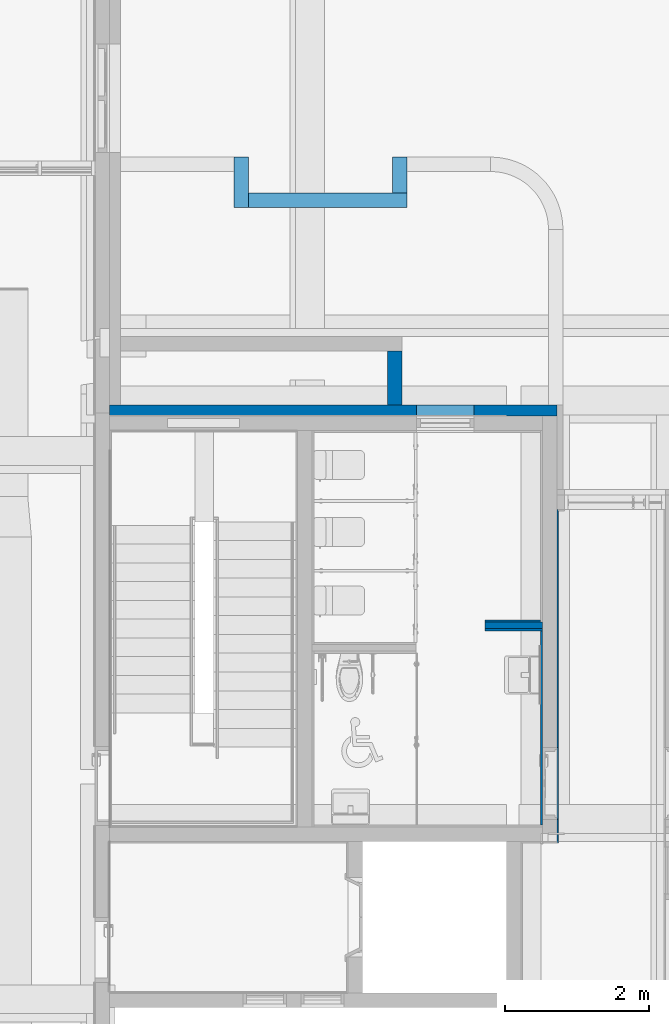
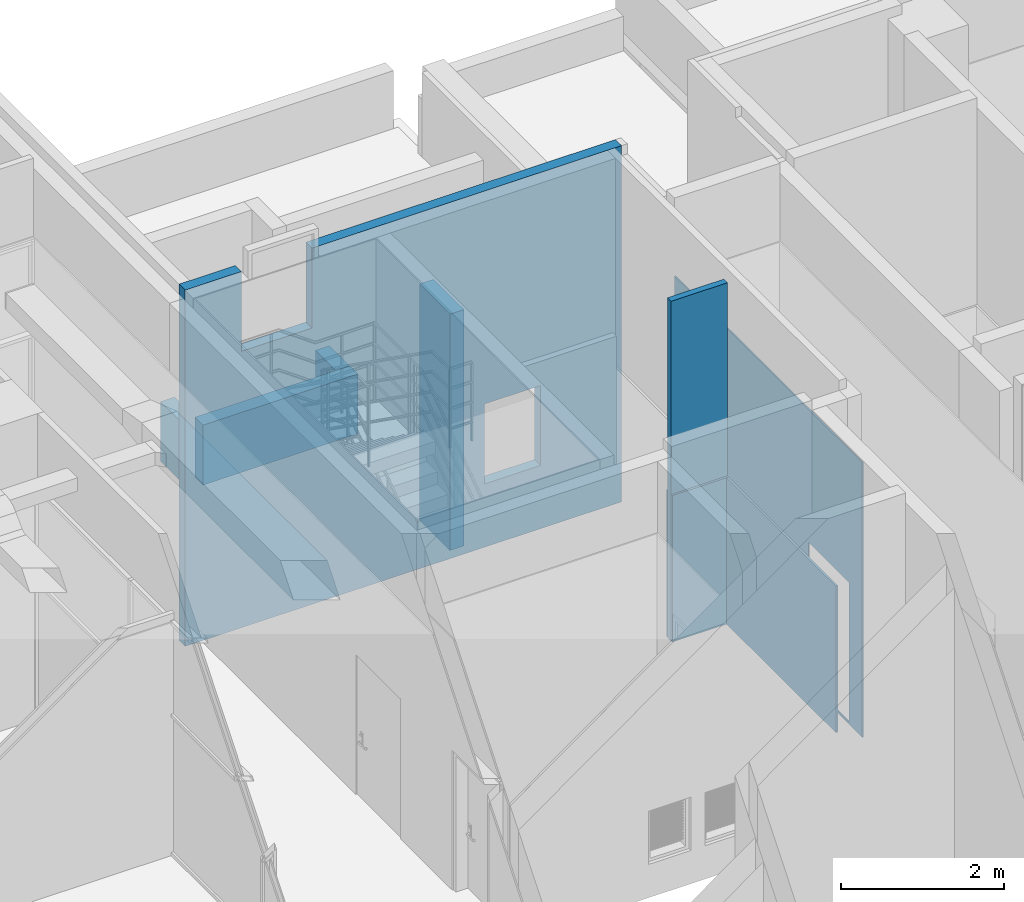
# One storey, part 49 of 100: 10 walls, 3 openings.
"""IFC2X3 building model written with IfcOpenShell, lengths in millimetres."""

import ifcopenshell
import ifcopenshell.guid

model = None  # the IFC model being written
_history = None  # IfcOwnerHistory: only IFC2X3 demands one
_inside = {}  # id of a spatial element -> (the spatial element, [elements in it])
_under = {}  # id of a project, library or spatial element -> (it, [spatial elements below it])
_declared = {}  # id of a project -> (the project, [libraries it declares])
_typed = {}  # id of a type object -> (the type object, [elements of that type])
_made_of = {}  # id of a material, layer set ... -> (it, [elements and type objects made of it])


def new_model(schema):
    """Start an empty IFC model of exactly this schema.

    Asked for "IFC4X3", IfcOpenShell would pick the latest addendum, in which some entities
    have other attributes; the version numbers below select the first issue.
    IFC2X3 requires an IfcOwnerHistory on every rooted entity: one is made here for all.
    """
    global model, _history
    if schema == "IFC4X3":
        model = ifcopenshell.file(schema_version=(4, 3, 0, 0))
    else:
        model = ifcopenshell.file(schema=schema)
    _inside.clear()
    _under.clear()
    _declared.clear()
    _typed.clear()
    _made_of.clear()
    _history = None
    if model.schema == "IFC2X3":
        org = make("IfcOrganization", Name="unknown")
        user = make(
            "IfcPersonAndOrganization",
            ThePerson=make("IfcPerson", FamilyName="unknown"),
            TheOrganization=org,
        )
        app = make(
            "IfcApplication",
            ApplicationDeveloper=org,
            Version="unknown",
            ApplicationFullName="unknown",
            ApplicationIdentifier="unknown",
        )
        _history = make(
            "IfcOwnerHistory",
            OwningUser=user,
            OwningApplication=app,
            ChangeAction="ADDED",
            CreationDate=0,
        )
    return model


def make(cls, **values):
    """One entity of the class cls with the attributes given. An attribute that is None is left unset."""
    return model.create_entity(
        cls, **{name: value for name, value in values.items() if value is not None}
    )


def entity(cls, *values):
    """Any entity or typed value of the class cls, its attributes in the order of the schema. None: left unset."""
    e = model.create_entity(cls)
    for i, value in enumerate(values):
        if value is not None:
            e[i] = value
    return e


def rooted(cls, **values):
    """An entity with a GlobalId (a new one), such as an element, a storey or a relation."""
    return make(cls, GlobalId=ifcopenshell.guid.new(), OwnerHistory=_history, **values)


def si_unit(unit_type, name, prefix=None):
    """IfcSIUnit, for example si_unit("LENGTHUNIT", "METRE", prefix="MILLI")."""
    return make("IfcSIUnit", UnitType=unit_type, Prefix=prefix, Name=name)


def converted_unit(unit_type, name, factor, base, dimensions=None, offset=None):
    """IfcConversionBasedUnit, such as the inch: factor (a typed value) times the base unit."""
    return make(
        "IfcConversionBasedUnit"
        if offset is None
        else "IfcConversionBasedUnitWithOffset",
        ConversionOffset=offset,
        Dimensions=None
        if dimensions is None
        else entity("IfcDimensionalExponents", *dimensions),
        UnitType=unit_type,
        Name=name,
        ConversionFactor=make(
            "IfcMeasureWithUnit", ValueComponent=factor, UnitComponent=base
        ),
    )


def derived_unit(unit_type, elements):
    """IfcDerivedUnit: a product of units, each with its exponent."""
    return make(
        "IfcDerivedUnit",
        Elements=[
            make("IfcDerivedUnitElement", Unit=unit, Exponent=power)
            for unit, power in elements
        ],
        UnitType=unit_type,
    )


def assignment(units):
    """IfcUnitAssignment: the units of a project."""
    return None if units is None else make("IfcUnitAssignment", Units=units)


def point(xyz):
    """IfcCartesianPoint."""
    return None if xyz is None else make("IfcCartesianPoint", Coordinates=xyz)


def direction(xyz):
    """IfcDirection."""
    return None if xyz is None else make("IfcDirection", DirectionRatios=xyz)


def frame(location, z_axis=None, x_axis=None):
    """IfcAxis2Placement3D, a coordinate frame: its origin and axes. An axis left out is left unset."""
    return make(
        "IfcAxis2Placement3D",
        Location=point(location),
        Axis=direction(z_axis),
        RefDirection=direction(x_axis),
    )


def frame_2d(location, x_axis=None):
    """IfcAxis2Placement2D, a coordinate frame in the plane: its origin and x axis."""
    return make(
        "IfcAxis2Placement2D", Location=point(location), RefDirection=direction(x_axis)
    )


def origin():
    """The frame at (0, 0, 0) with its axes left unset."""
    return frame((0.0, 0.0, 0.0))


def place(relative_to, where):
    """IfcLocalPlacement: puts the frame where relative to a parent placement (None: the world)."""
    return make(
        "IfcLocalPlacement", PlacementRelTo=relative_to, RelativePlacement=where
    )


def context(
    kind, dimensions, precision=None, world=None, true_north=None, identifier=None
):
    """IfcGeometricRepresentationContext, for example the 3D "Model" context."""
    return make(
        "IfcGeometricRepresentationContext",
        ContextIdentifier=identifier,
        ContextType=kind,
        CoordinateSpaceDimension=dimensions,
        Precision=precision,
        WorldCoordinateSystem=world,
        TrueNorth=true_north,
    )


def subcontext(parent, identifier, kind, view, scale=None):
    """IfcGeometricRepresentationSubContext, for example "Body" below "Model"."""
    return make(
        "IfcGeometricRepresentationSubContext",
        ContextIdentifier=identifier,
        ContextType=kind,
        ParentContext=parent,
        TargetScale=scale,
        TargetView=view,
    )


def project(units=None, contexts=None):
    """IfcProject with its units and contexts."""
    return rooted(
        "IfcProject",
        Name="project",
        RepresentationContexts=contexts,
        UnitsInContext=assignment(units),
    )


def spatial(cls, under=None, at=None, **own):
    """A site, building, storey or space (cls), placed at a placement, below another one or the project."""
    s = rooted(cls, ObjectPlacement=at, **own)
    if under is not None:
        _under.setdefault(under.id(), (under, []))[1].append(s)
    return s


def profile(cls, at=None, kind="AREA", **sizes):
    """A parametric profile (cls). Its sizes go by their IFC names, for example OverallWidth=200.0."""
    return make(cls, ProfileType=kind, Position=at, **sizes)


def rectangle(**sizes):
    """IfcRectangleProfileDef."""
    return profile("IfcRectangleProfileDef", **sizes)


def extrude(swept, where, along, depth):
    """IfcExtrudedAreaSolid: the profile swept, set in the frame where, extruded along a direction by depth."""
    return make(
        "IfcExtrudedAreaSolid",
        SweptArea=swept,
        Position=where,
        ExtrudedDirection=direction(along),
        Depth=depth,
    )


def shape(context_of_items, identifier, shape_type, items):
    """IfcShapeRepresentation: the items that make up one representation, for example the "Body"."""
    return make(
        "IfcShapeRepresentation",
        ContextOfItems=context_of_items,
        RepresentationIdentifier=identifier,
        RepresentationType=shape_type,
        Items=items,
    )


def material(Name=None, Category=None):
    """IfcMaterial."""
    return make("IfcMaterial", Name=Name, Category=Category)


def layer(
    of_material, thickness, ventilated=None, Name=None, Category=None, Priority=None
):
    """IfcMaterialLayer: one layer of a wall or slab, of a material (None: an air gap)."""
    return make(
        "IfcMaterialLayer",
        Material=of_material,
        LayerThickness=thickness,
        IsVentilated=ventilated,
        Name=Name,
        Category=Category,
        Priority=Priority,
    )


def layer_set(layers, Name=None):
    """IfcMaterialLayerSet."""
    return make("IfcMaterialLayerSet", MaterialLayers=layers, LayerSetName=Name)


def layer_usage(for_layer_set, set_direction, sense, offset, extent=None):
    """IfcMaterialLayerSetUsage: how a layer set lies in its element."""
    return make(
        "IfcMaterialLayerSetUsage",
        ForLayerSet=for_layer_set,
        LayerSetDirection=set_direction,
        DirectionSense=sense,
        OffsetFromReferenceLine=offset,
        ReferenceExtent=extent,
    )


def made_of(thing, what):
    """Note that an element or type object is made of a material, layer set ...; save() writes the relation."""
    if what is not None:
        _made_of.setdefault(what.id(), (what, []))[1].append(thing)
    return thing


def type_object(cls, material=None, **own):
    """A type object (cls), such as IfcWallType, which elements share."""
    return made_of(rooted(cls, **own), material)


def element(
    cls,
    number,
    at=None,
    inside=None,
    cuts=None,
    type_object=None,
    material=None,
    context=None,
    identifier="Body",
    shape_type=None,
    held_by="IfcProductDefinitionShape",
    body=None,
    shapes=None,
    **own,
):
    """One element of the class cls, such as IfcWall. Its Tag is "e" and its number.

    at: its placement. inside: the storey or other place that contains it. cuts: it is an
    opening in that element (IfcRelVoidsElement). A single representation is given by context,
    identifier, shape_type and body (its items); several are given by shapes. held_by: the class
    of the entity that holds the representations. save() writes the other relations.
    """
    e = rooted(cls, Tag="e%d" % number, ObjectPlacement=at, **own)
    if body is not None:
        shapes = [shape(context, identifier, shape_type, body)]
    if shapes is not None:
        e.Representation = make(held_by, Representations=shapes)
    if inside is not None:
        _inside.setdefault(inside.id(), (inside, []))[1].append(e)
    if cuts is not None:
        rooted(
            "IfcRelVoidsElement", RelatingBuildingElement=cuts, RelatedOpeningElement=e
        )
    if type_object is not None:
        _typed.setdefault(type_object.id(), (type_object, []))[1].append(e)
    return made_of(e, material)


def aggregate(whole, parts):
    """IfcRelAggregates: a whole, such as a stair, and the parts it consists of."""
    return rooted("IfcRelAggregates", RelatingObject=whole, RelatedObjects=parts)


def save(model, path):
    """Write the relations noted so far, then the file.

    IfcRelAggregates (storeys below a building ...), IfcRelContainedInSpatialStructure (elements
    in a storey), IfcRelDefinesByType, IfcRelAssociatesMaterial and IfcRelDeclares: one each for
    every whole, place, type object, material and project.
    """
    for whole, parts in _under.values():
        aggregate(whole, parts)
    for where, things in _inside.values():
        rooted(
            "IfcRelContainedInSpatialStructure",
            RelatedElements=things,
            RelatingStructure=where,
        )
    for kind, things in _typed.values():
        rooted("IfcRelDefinesByType", RelatedObjects=things, RelatingType=kind)
    for what, things in _made_of.values():
        rooted("IfcRelAssociatesMaterial", RelatedObjects=things, RelatingMaterial=what)
    for by, libraries in _declared.values():
        rooted("IfcRelDeclares", RelatingContext=by, RelatedDefinitions=libraries)
    model.write(path)


model = new_model("IFC2X3")

# Units and contexts
model_context = context("Model", 3, precision=0.01, world=origin(), true_north=direction((6.123031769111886e-17, 1.0)))
body_context = subcontext(model_context, "Body", "Model", "MODEL_VIEW")
ifc_project = project(units=[si_unit("LENGTHUNIT", "METRE", prefix="MILLI"), si_unit("AREAUNIT", "SQUARE_METRE"), si_unit("VOLUMEUNIT", "CUBIC_METRE"), converted_unit("PLANEANGLEUNIT", "DEGREE", entity("IfcRatioMeasure", 0.017453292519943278), si_unit("PLANEANGLEUNIT", "RADIAN"), dimensions=[0, 0, 0, 0, 0, 0, 0]), si_unit("MASSUNIT", "GRAM", prefix="KILO"), derived_unit("MASSDENSITYUNIT", [(si_unit("MASSUNIT", "GRAM", prefix="KILO"), 1), (si_unit("LENGTHUNIT", "METRE"), -3)]), derived_unit("MOMENTOFINERTIAUNIT", [(si_unit("LENGTHUNIT", "METRE"), 4)]), si_unit("TIMEUNIT", "SECOND"), si_unit("FREQUENCYUNIT", "HERTZ"), si_unit("THERMODYNAMICTEMPERATUREUNIT", "DEGREE_CELSIUS"), derived_unit("THERMALTRANSMITTANCEUNIT", [(si_unit("MASSUNIT", "GRAM", prefix="KILO"), 1), (si_unit("THERMODYNAMICTEMPERATUREUNIT", "KELVIN"), -1), (si_unit("TIMEUNIT", "SECOND"), -3)]), derived_unit("VOLUMETRICFLOWRATEUNIT", [(si_unit("LENGTHUNIT", "METRE"), 3), (si_unit("TIMEUNIT", "SECOND"), -1)]), derived_unit("MASSFLOWRATEUNIT", [(si_unit("MASSUNIT", "GRAM", prefix="KILO"), 1), (si_unit("TIMEUNIT", "SECOND"), -1)]), derived_unit("ROTATIONALFREQUENCYUNIT", [(si_unit("TIMEUNIT", "SECOND"), -1)]), si_unit("ELECTRICCURRENTUNIT", "AMPERE"), si_unit("ELECTRICVOLTAGEUNIT", "VOLT"), si_unit("POWERUNIT", "WATT"), si_unit("FORCEUNIT", "NEWTON", prefix="KILO"), si_unit("ILLUMINANCEUNIT", "LUX"), si_unit("LUMINOUSFLUXUNIT", "LUMEN"), si_unit("LUMINOUSINTENSITYUNIT", "CANDELA"), derived_unit("USERDEFINED", [(si_unit("MASSUNIT", "GRAM", prefix="KILO"), -1), (si_unit("LENGTHUNIT", "METRE"), -2), (si_unit("TIMEUNIT", "SECOND"), 3), (si_unit("LUMINOUSFLUXUNIT", "LUMEN"), 1)]), derived_unit("SOUNDPOWERUNIT", [(si_unit("MASSUNIT", "GRAM", prefix="KILO"), 1), (si_unit("LENGTHUNIT", "METRE"), 2), (si_unit("TIMEUNIT", "SECOND"), -3)]), derived_unit("SOUNDPRESSUREUNIT", [(si_unit("MASSUNIT", "GRAM", prefix="KILO"), 1), (si_unit("LENGTHUNIT", "METRE"), -1), (si_unit("TIMEUNIT", "SECOND"), -2)]), derived_unit("LINEARVELOCITYUNIT", [(si_unit("LENGTHUNIT", "METRE"), 1), (si_unit("TIMEUNIT", "SECOND"), -1)]), si_unit("PRESSUREUNIT", "PASCAL"), derived_unit("USERDEFINED", [(si_unit("LENGTHUNIT", "METRE"), -2), (si_unit("MASSUNIT", "GRAM", prefix="KILO"), 1), (si_unit("TIMEUNIT", "SECOND"), -2)]), derived_unit("LINEARFORCEUNIT", [(si_unit("MASSUNIT", "GRAM", prefix="KILO"), 1), (si_unit("LENGTHUNIT", "METRE"), 1), (si_unit("TIMEUNIT", "SECOND"), -2), (si_unit("LENGTHUNIT", "METRE"), -1)]), derived_unit("PLANARFORCEUNIT", [(si_unit("MASSUNIT", "GRAM", prefix="KILO"), 1), (si_unit("LENGTHUNIT", "METRE"), 1), (si_unit("TIMEUNIT", "SECOND"), -2), (si_unit("LENGTHUNIT", "METRE"), -2)])], contexts=[model_context])

# Site, building, storey
site_placement = place(None, frame((-14167.972527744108, -657.2125860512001, 0.0)))
site = spatial("IfcSite", under=ifc_project, at=site_placement, Name="Default", CompositionType="ELEMENT")
building_placement = place(site_placement, origin())
building = spatial("IfcBuilding", under=site, at=building_placement, Name="Sample Building", CompositionType="ELEMENT")
storey_placement = place(building_placement, origin())
storey = spatial("IfcBuildingStorey", under=building, at=storey_placement, Name="지상 1층", CompositionType="ELEMENT", Elevation=0.0)

# Walls
ifc_material_1 = material(Name="KBIMS-콘크리트")
ifc_layer_1 = layer(ifc_material_1, 200.0)
ifc_layer_set_1 = layer_set([ifc_layer_1], Name="기본 벽:WA111-철근콘크리트구조 벽 200mm_CW1")
ifc_layer_usage_1 = layer_usage(ifc_layer_set_1, "AXIS2", "NEGATIVE", 100.0)
wall_type_1 = type_object("IfcWallType", Name="기본 벽:WA111-철근콘크리트구조 벽 200mm_CW1", PredefinedType="STANDARD", material=ifc_layer_set_1)
wall_1_placement = place(storey_placement, frame((34216.53319398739, 29057.21230798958, -550.0), z_axis=(0.0, 0.0, 1.0), x_axis=(0.0, -1.0, 0.0)))
element("IfcWallStandardCase", 1, at=wall_1_placement, inside=storey, type_object=wall_type_1, material=ifc_layer_usage_1, Name="기본 벽:WA111-철근콘크리트구조 벽 200mm_CW1", ObjectType="기본 벽:WA111-철근콘크리트구조 벽 200mm_CW1", context=body_context, shape_type="SweptSolid", body=[
    extrude(rectangle(XDim=749.9999999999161, YDim=199.99999999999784, at=frame_2d((374.99999999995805, 0.0), x_axis=(-1.0, 0.0))), origin(), (0.0, 0.0, 1.0), 3550.0000000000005),
])
ifc_layer_usage_2 = layer_usage(ifc_layer_set_1, "AXIS2", "NEGATIVE", 100.0)
wall_2_placement = place(storey_placement, frame((32088.007088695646, 31042.542930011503, -550.0), z_axis=(0.0, 0.0, 1.0), x_axis=(0.0, 1.0, 0.0)))
element("IfcWallStandardCase", 2, at=wall_2_placement, inside=storey, type_object=wall_type_1, material=ifc_layer_usage_2, Name="기본 벽:WA111-철근콘크리트구조 벽 200mm_CW1", ObjectType="기본 벽:WA111-철근콘크리트구조 벽 200mm_CW1", context=body_context, shape_type="SweptSolid", body=[
    extrude(rectangle(XDim=699.9999999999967, YDim=200.0000000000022, at=frame_2d((349.99999999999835, -1.6626700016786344e-12), x_axis=(-1.0, 0.0))), origin(), (0.0, 0.0, 1.0), 900.0000000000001),
])
ifc_layer_usage_3 = layer_usage(ifc_layer_set_1, "AXIS2", "NEGATIVE", 100.0)
wall_3_placement = place(storey_placement, frame((32188.007088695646, 31142.542930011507, -550.0)))
element("IfcWallStandardCase", 3, at=wall_3_placement, inside=storey, type_object=wall_type_1, material=ifc_layer_usage_3, Name="기본 벽:WA111-철근콘크리트구조 벽 200mm_CW1", ObjectType="기본 벽:WA111-철근콘크리트구조 벽 200mm_CW1", context=body_context, shape_type="SweptSolid", body=[
    extrude(rectangle(XDim=2200.000000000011, YDim=200.0000000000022, at=frame_2d((1100.0000000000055, -8.171241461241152e-13), x_axis=(-1.0, 0.0))), origin(), (0.0, 0.0, 1.0), 900.0000000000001),
])
ifc_layer_usage_4 = layer_usage(ifc_layer_set_1, "AXIS2", "NEGATIVE", 100.0)
wall_4_placement = place(storey_placement, frame((34288.00708869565, 31742.54293001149, -550.0), z_axis=(0.0, 0.0, 1.0), x_axis=(0.0, -1.0, 0.0)))
element("IfcWallStandardCase", 4, at=wall_4_placement, inside=storey, type_object=wall_type_1, material=ifc_layer_usage_4, Name="기본 벽:WA111-철근콘크리트구조 벽 200mm_CW1", ObjectType="기본 벽:WA111-철근콘크리트구조 벽 200mm_CW1", context=body_context, shape_type="SweptSolid", body=[
    extrude(rectangle(XDim=499.9999999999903, YDim=199.99999999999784, at=frame_2d((249.99999999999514, 1.7053025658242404e-13), x_axis=(-1.0, 0.0))), origin(), (0.0, 0.0, 1.0), 900.0000000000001),
])

# Wall, openings
ifc_material_2 = material(Name="WA240-ALC블록벽")
ifc_layer_2 = layer(ifc_material_2, 35.0)
ifc_material_3 = material(Name="WA795-(STEEL)BRACKET")
ifc_layer_3 = layer(ifc_material_3, 65.0)
ifc_material_4 = material(Name="WA821-압출스티로폼 벽 (본드붙임, 비중0.03) 50mm")
ifc_layer_4 = layer(ifc_material_4, 50.0)
ifc_layer_set_2 = layer_set([ifc_layer_2, ifc_layer_3, ifc_layer_4], Name="기본 벽:A2-22-02A-압출스티로폼, BRACKET(STEEL), ALC블록 (150mm)")
ifc_layer_usage_5 = layer_usage(ifc_layer_set_2, "AXIS2", "POSITIVE", -75.0)
wall_type_2 = type_object("IfcWallType", Name="기본 벽:A2-22-02A-압출스티로폼, BRACKET(STEEL), ALC블록 (150mm)", PredefinedType="STANDARD", material=ifc_layer_set_2)
wall_5_placement = place(storey_placement, frame((36467.963798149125, 28232.212307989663, -550.0), z_axis=(0.0, 0.0, 1.0), x_axis=(-1.0, 0.0, 0.0)))
wall_5 = element("IfcWallStandardCase", 5, at=wall_5_placement, inside=storey, type_object=wall_type_2, material=ifc_layer_usage_5, Name="기본 벽:A2-22-02A-압출스티로폼, BRACKET(STEEL), ALC블록 (150mm)", ObjectType="기본 벽:A2-22-02A-압출스티로폼, BRACKET(STEEL), ALC블록 (150mm)", context=body_context, shape_type="SweptSolid", body=[
    extrude(rectangle(XDim=6200.000036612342, YDim=150.00000000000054, at=frame_2d((3100.000018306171, 0.0), x_axis=(-1.0, 0.0))), origin(), (0.0, 0.0, 1.0), 5350.000000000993),
])
opening_1_placement = place(wall_5_placement, origin())
element("IfcOpeningElement", 6, at=opening_1_placement, cuts=wall_5, Name="기본 벽:A2-22-02A-압출스티로폼, BRACKET(STEEL), ALC블록 (150mm)", ObjectType="Opening", context=body_context, shape_type="SweptSolid", body=[
    extrude(rectangle(XDim=1600.0000000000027, YDim=999.999999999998, at=frame_2d((0.0, 2.8421709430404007e-13), x_axis=(0.0, 1.0))), frame((4900.914645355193, -1249.0, 4950.0), z_axis=(0.0, 1.0, 0.0), x_axis=(-1.0, 0.0, 0.0)), (0.0, 0.0, 1.0), 3048.0),
])
opening_2_placement = place(wall_5_placement, origin())
element("IfcOpeningElement", 7, at=opening_2_placement, cuts=wall_5, Name="기본 벽:A2-22-02A-압출스티로폼, BRACKET(STEEL), ALC블록 (150mm)", ObjectType="Opening", context=body_context, shape_type="SweptSolid", body=[
    extrude(rectangle(XDim=1200.0000000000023, YDim=799.9999999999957, at=frame_2d((5.684341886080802e-14, -2.1600499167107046e-12), x_axis=(1.0, 0.0))), frame((1549.991307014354, -1449.0, 1550.0), z_axis=(0.0, 1.0, 0.0), x_axis=(0.0, 0.0, 1.0)), (0.0, 0.0, 1.0), 3048.0),
])

# Wall
ifc_material_5 = material(Name="KBIMS-시멘트 벽돌")
ifc_layer_5 = layer(ifc_material_5, 90.0)
ifc_layer_set_3 = layer_set([ifc_layer_5], Name="기본 벽:WA211-시멘트벽돌(일반) 벽 (0.5B) 90mm")
ifc_layer_usage_6 = layer_usage(ifc_layer_set_3, "AXIS2", "NEGATIVE", 45.0)
wall_type_3 = type_object("IfcWallType", Name="기본 벽:WA211-시멘트벽돌(일반) 벽 (0.5B) 90mm", PredefinedType="STANDARD", material=ifc_layer_set_3)
wall_6_placement = place(storey_placement, frame((35467.9637981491, 25252.21230798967, -510.0)))
element("IfcWallStandardCase", 8, at=wall_6_placement, inside=storey, type_object=wall_type_3, material=ifc_layer_usage_6, Name="기본 벽:WA211-시멘트벽돌(일반) 벽 (0.5B) 90mm", ObjectType="기본 벽:WA211-시멘트벽돌(일반) 벽 (0.5B) 90mm", context=body_context, shape_type="SweptSolid", body=[
    extrude(rectangle(XDim=800.0000000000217, YDim=90.0000000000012, at=frame_2d((400.00000000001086, -2.8919089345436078e-12), x_axis=(-1.0, 0.0))), origin(), (0.0, 0.0, 1.0), 5110.000000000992),
])

# Wall, opening
ifc_material_6 = material(Name="WA611-수성페인트 (내부) 벽 (3회)")
ifc_layer_6 = layer(ifc_material_6, 1.0)
ifc_material_7 = material(Name="WA551-시멘트모르타르 (내부) 벽 18mm")
ifc_layer_7 = layer(ifc_material_7, 16.0)
ifc_material_8 = material(Name="WA555-콘크리트면정리 벽 (내부)")
ifc_layer_8 = layer(ifc_material_8, 1.0)
ifc_layer_set_4 = layer_set([ifc_layer_6, ifc_layer_7, ifc_layer_8], Name="기본 벽:A1-32-06A-콘크리트면정리, 시멘트모르타르(미장용), 수성페인트(내부) (18mm)")
ifc_layer_usage_7 = layer_usage(ifc_layer_set_4, "AXIS2", "NEGATIVE", 9.000000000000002)
wall_type_4 = type_object("IfcWallType", Name="기본 벽:A1-32-06A-콘크리트면정리, 시멘트모르타르(미장용), 수성페인트(내부) (18mm)", PredefinedType="STANDARD", material=ifc_layer_set_4)
wall_7_placement = place(storey_placement, frame((36476.963798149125, 26857.212295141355, -500.0), z_axis=(0.0, 0.0, 1.0), x_axis=(0.0, -1.0, 0.0)))
wall_7 = element("IfcWallStandardCase", 9, at=wall_7_placement, inside=storey, type_object=wall_type_4, material=ifc_layer_usage_7, Name="기본 벽:A1-32-06A-콘크리트면정리, 시멘트모르타르(미장용), 수성페인트(내부) (18mm)", ObjectType="기본 벽:A1-32-06A-콘크리트면정리, 시멘트모르타르(미장용), 수성페인트(내부) (18mm)", context=body_context, shape_type="SweptSolid", body=[
    extrude(rectangle(XDim=4618.017400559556, YDim=18.00000000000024, at=frame_2d((2309.008700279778, -2.140509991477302e-12), x_axis=(-1.0, 0.0))), origin(), (0.0, 0.0, 1.0), 4130.000000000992),
])
opening_3_placement = place(wall_7_placement, origin())
element("IfcOpeningElement", 10, at=opening_3_placement, cuts=wall_7, Name="기본 벽:A1-32-06A-콘크리트면정리, 시멘트모르타르(미장용), 수성페인트(내부) (18mm)", ObjectType="Opening", context=body_context, shape_type="SweptSolid", body=[
    extrude(rectangle(XDim=2099.999999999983, YDim=999.999999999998, at=frame_2d((0.0, 0.0), x_axis=(0.0, 1.0))), frame((3793.539477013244, -1533.0, 1080.0), z_axis=(0.0, 1.0, 0.0), x_axis=(-1.0, 0.0, 0.0)), (0.0, 0.0, 1.0), 3048.0),
])

# Walls
ifc_material_9 = material(Name="WA352-도기질타일 벽 200x200")
ifc_layer_9 = layer(ifc_material_9, 8.0)
ifc_material_10 = material(Name="WA551-시멘트모르타르 (내부) 벽 22mm")
ifc_layer_10 = layer(ifc_material_10, 22.0)
ifc_layer_set_5 = layer_set([ifc_layer_9, ifc_layer_10], Name="기본 벽:A1-33-01B-시멘트 모르타르, 도기질타일 (30mm)")
ifc_layer_usage_8 = layer_usage(ifc_layer_set_5, "AXIS2", "POSITIVE", -15.0)
wall_type_5 = type_object("IfcWallType", Name="기본 벽:A1-33-01B-시멘트 모르타르, 도기질타일 (30mm)", PredefinedType="STANDARD", material=ifc_layer_set_5)
wall_8_placement = place(storey_placement, frame((36252.96379815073, 22487.212311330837, -500.0), z_axis=(0.0, 0.0, 1.0), x_axis=(0.0, 1.0, 0.0)))
element("IfcWallStandardCase", 11, at=wall_8_placement, inside=storey, type_object=wall_type_5, material=ifc_layer_usage_8, Name="기본 벽:A1-33-01B-시멘트 모르타르, 도기질타일 (30mm)", ObjectType="기본 벽:A1-33-01B-시멘트 모르타르, 도기질타일 (30mm)", context=body_context, shape_type="SweptSolid", body=[
    extrude(rectangle(XDim=2689.999998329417, YDim=30.000000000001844, at=frame_2d((1344.9999991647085, 1.0649259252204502e-12), x_axis=(-1.0, 0.0))), origin(), (0.0, 0.0, 1.0), 2200.0),
])
ifc_layer_usage_9 = layer_usage(ifc_layer_set_5, "AXIS2", "POSITIVE", -15.0)
wall_9_placement = place(storey_placement, frame((35467.98127038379, 25312.21230966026, -500.0)))
element("IfcWallStandardCase", 12, at=wall_9_placement, inside=storey, type_object=wall_type_5, material=ifc_layer_usage_9, Name="기본 벽:A1-33-01B-시멘트 모르타르, 도기질타일 (30mm)", ObjectType="기본 벽:A1-33-01B-시멘트 모르타르, 도기질타일 (30mm)", context=body_context, shape_type="SweptSolid", body=[
    extrude(rectangle(XDim=769.9825277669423, YDim=30.000000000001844, at=frame_2d((384.99126388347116, -9.876544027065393e-13), x_axis=(-1.0, 0.0))), origin(), (0.0, 0.0, 1.0), 2200.0),
])
ifc_layer_usage_10 = layer_usage(ifc_layer_set_5, "AXIS2", "NEGATIVE", 15.0)
wall_10_placement = place(storey_placement, frame((35467.98127038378, 25192.21230966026, -500.0)))
element("IfcWallStandardCase", 13, at=wall_10_placement, inside=storey, type_object=wall_type_5, material=ifc_layer_usage_10, Name="기본 벽:A1-33-01B-시멘트 모르타르, 도기질타일 (30mm)", ObjectType="기본 벽:A1-33-01B-시멘트 모르타르, 도기질타일 (30mm)", context=body_context, shape_type="SweptSolid", body=[
    extrude(rectangle(XDim=799.9825277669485, YDim=30.000000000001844, at=frame_2d((399.99126388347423, -9.920952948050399e-13), x_axis=(-1.0, 0.0))), origin(), (0.0, 0.0, 1.0), 2200.0),
])

save(model, "model.ifc")
